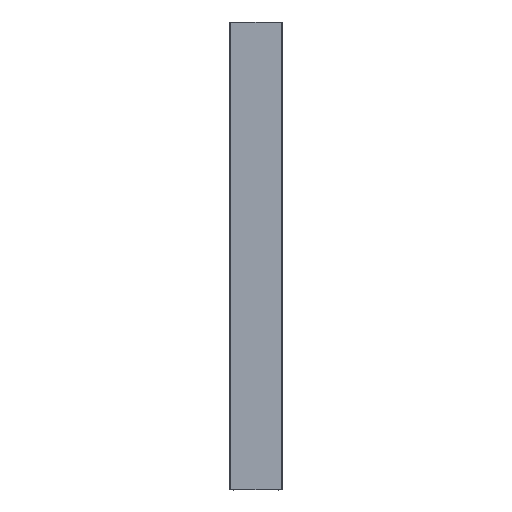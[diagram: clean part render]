
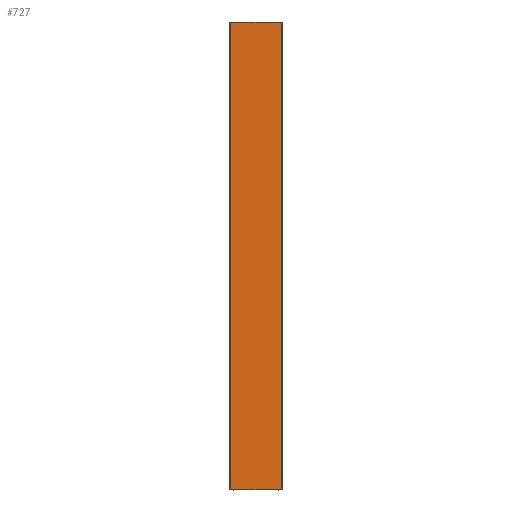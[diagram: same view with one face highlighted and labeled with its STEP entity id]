
A CAD part, top view. The second image highlights one B-rep face of the part: STEP entity #727.
In plain terms, the highlighted planar face has unit normal (0, 0, 1).
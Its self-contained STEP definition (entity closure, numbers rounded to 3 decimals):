
#69 = LINE ( 'NONE', #567, #1307 ) ;
#79 = VECTOR ( 'NONE', #1037, 1000. ) ;
#86 = LINE ( 'NONE', #686, #1331 ) ;
#131 = CARTESIAN_POINT ( 'NONE',  ( -5.35, 50., 0. ) ) ;
#164 = EDGE_CURVE ( 'NONE', #845, #1033, #1245, .T. ) ;
#168 = DIRECTION ( 'NONE',  ( 1., 0., 0. ) ) ;
#214 = AXIS2_PLACEMENT_3D ( 'NONE', #131, #1056, #1168 ) ;
#293 = DIRECTION ( 'NONE',  ( 0., -1., 0. ) ) ;
#303 = ORIENTED_EDGE ( 'NONE', *, *, #878, .T. ) ;
#354 = ORIENTED_EDGE ( 'NONE', *, *, #164, .F. ) ;
#391 = LINE ( 'NONE', #1309, #1198 ) ;
#509 = CARTESIAN_POINT ( 'NONE',  ( -5.35, -50., 0. ) ) ;
#567 = CARTESIAN_POINT ( 'NONE',  ( -5.35, 50., 0. ) ) ;
#590 = DIRECTION ( 'NONE',  ( 1., 0., 0. ) ) ;
#605 = CARTESIAN_POINT ( 'NONE',  ( -5.35, 50., 0. ) ) ;
#646 = FACE_OUTER_BOUND ( 'NONE', #1237, .T. ) ;
#651 = PLANE ( 'NONE',  #214 ) ;
#686 = CARTESIAN_POINT ( 'NONE',  ( -5.35, 50., 0. ) ) ;
#727 = ADVANCED_FACE ( 'NONE', ( #646 ), #651, .F. ) ;
#845 = VERTEX_POINT ( 'NONE', #1270 ) ;
#878 = EDGE_CURVE ( 'NONE', #1010, #1114, #69, .T. ) ;
#936 = EDGE_CURVE ( 'NONE', #1114, #1033, #391, .T. ) ;
#950 = EDGE_CURVE ( 'NONE', #1010, #845, #86, .T. ) ;
#1010 = VERTEX_POINT ( 'NONE', #605 ) ;
#1015 = CARTESIAN_POINT ( 'NONE',  ( 5.35, -50., 0. ) ) ;
#1018 = ORIENTED_EDGE ( 'NONE', *, *, #950, .F. ) ;
#1029 = CARTESIAN_POINT ( 'NONE',  ( 5.35, 50., 0. ) ) ;
#1033 = VERTEX_POINT ( 'NONE', #1015 ) ;
#1037 = DIRECTION ( 'NONE',  ( 0., -1., 0. ) ) ;
#1056 = DIRECTION ( 'NONE',  ( 0., 0., -1. ) ) ;
#1114 = VERTEX_POINT ( 'NONE', #509 ) ;
#1168 = DIRECTION ( 'NONE',  ( -1., 0., 0. ) ) ;
#1198 = VECTOR ( 'NONE', #590, 1000. ) ;
#1237 = EDGE_LOOP ( 'NONE', ( #1292, #354, #1018, #303 ) ) ;
#1245 = LINE ( 'NONE', #1029, #79 ) ;
#1270 = CARTESIAN_POINT ( 'NONE',  ( 5.35, 50., 0. ) ) ;
#1292 = ORIENTED_EDGE ( 'NONE', *, *, #936, .T. ) ;
#1307 = VECTOR ( 'NONE', #293, 1000. ) ;
#1309 = CARTESIAN_POINT ( 'NONE',  ( -5.35, -50., 0. ) ) ;
#1331 = VECTOR ( 'NONE', #168, 1000. ) ;
